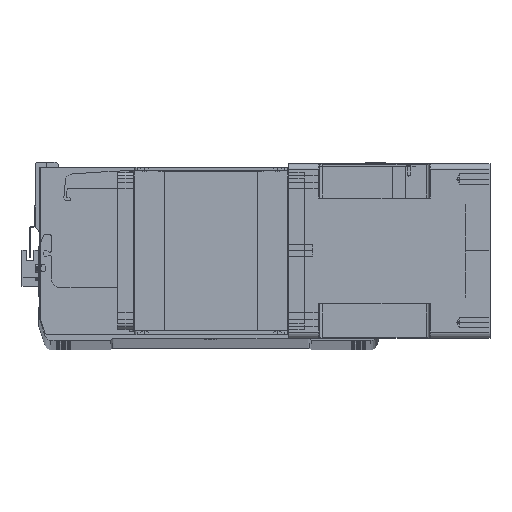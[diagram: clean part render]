
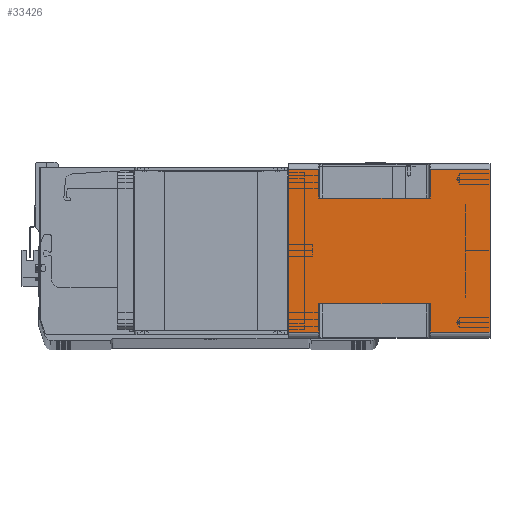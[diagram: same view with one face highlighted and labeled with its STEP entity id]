
A CAD part, top view. The second image highlights one B-rep face of the part: STEP entity #33426.
In plain terms, the highlighted planar face has unit normal (0, 0, 1) as drawn and (1, 0, 0) by its records, which use the part's own axes.
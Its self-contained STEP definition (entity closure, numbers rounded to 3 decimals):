
#168 = EDGE_CURVE ( 'NONE', #31550, #9869, #9153, .T. ) ;
#484 = ORIENTED_EDGE ( 'NONE', *, *, #168, .F. ) ;
#975 = ORIENTED_EDGE ( 'NONE', *, *, #14214, .T. ) ;
#1294 = ORIENTED_EDGE ( 'NONE', *, *, #26325, .T. ) ;
#1536 = LINE ( 'NONE', #27620, #15442 ) ;
#1651 = VECTOR ( 'NONE', #27663, 1000. ) ;
#2192 = VERTEX_POINT ( 'NONE', #34812 ) ;
#2843 = LINE ( 'NONE', #15194, #32625 ) ;
#2965 = CARTESIAN_POINT ( 'NONE',  ( 71., -66., -24.5 ) ) ;
#3566 = DIRECTION ( 'NONE',  ( 0., 0., 1. ) ) ;
#4466 = DIRECTION ( 'NONE',  ( 0., 1., 0. ) ) ;
#4529 = VERTEX_POINT ( 'NONE', #24535 ) ;
#4841 = CARTESIAN_POINT ( 'NONE',  ( 71., -66., 0. ) ) ;
#5975 = CARTESIAN_POINT ( 'NONE',  ( 71., 66., -24.5 ) ) ;
#6228 = DIRECTION ( 'NONE',  ( 0., 0., -1. ) ) ;
#6365 = VECTOR ( 'NONE', #4466, 1000. ) ;
#7499 = ORIENTED_EDGE ( 'NONE', *, *, #14161, .F. ) ;
#7522 = LINE ( 'NONE', #2965, #22384 ) ;
#7566 = LINE ( 'NONE', #15366, #15920 ) ;
#7591 = VERTEX_POINT ( 'NONE', #16608 ) ;
#7613 = VERTEX_POINT ( 'NONE', #24937 ) ;
#7665 = VECTOR ( 'NONE', #28583, 1000. ) ;
#9153 = LINE ( 'NONE', #30848, #6365 ) ;
#9298 = EDGE_LOOP ( 'NONE', ( #35235, #1294, #7499, #975, #35802, #20534, #28759, #25782, #32081, #484, #16276, #36229 ) ) ;
#9339 = VERTEX_POINT ( 'NONE', #32962 ) ;
#9783 = DIRECTION ( 'NONE',  ( 0., 1., 0. ) ) ;
#9869 = VERTEX_POINT ( 'NONE', #29401 ) ;
#10289 = CARTESIAN_POINT ( 'NONE',  ( 71., 43., -24.5 ) ) ;
#11186 = VERTEX_POINT ( 'NONE', #5975 ) ;
#13044 = LINE ( 'NONE', #35784, #27010 ) ;
#13728 = DIRECTION ( 'NONE',  ( 0., 0., 1. ) ) ;
#13786 = EDGE_CURVE ( 'NONE', #29967, #11186, #7522, .T. ) ;
#14161 = EDGE_CURVE ( 'NONE', #2192, #7591, #13044, .T. ) ;
#14214 = EDGE_CURVE ( 'NONE', #2192, #9339, #2843, .T. ) ;
#14471 = DIRECTION ( 'NONE',  ( 0., 0., 1. ) ) ;
#14728 = PLANE ( 'NONE',  #37094 ) ;
#15032 = CARTESIAN_POINT ( 'NONE',  ( 71., 43., -164. ) ) ;
#15097 = VECTOR ( 'NONE', #35185, 1000. ) ;
#15194 = CARTESIAN_POINT ( 'NONE',  ( 71., -66., -164. ) ) ;
#15366 = CARTESIAN_POINT ( 'NONE',  ( 71., -43., -164. ) ) ;
#15442 = VECTOR ( 'NONE', #9783, 1000. ) ;
#15920 = VECTOR ( 'NONE', #3566, 1000. ) ;
#16276 = ORIENTED_EDGE ( 'NONE', *, *, #24245, .F. ) ;
#16488 = LINE ( 'NONE', #30762, #1651 ) ;
#16544 = EDGE_CURVE ( 'NONE', #29967, #20913, #28753, .T. ) ;
#16608 = CARTESIAN_POINT ( 'NONE',  ( 71., -66., -115.5 ) ) ;
#17121 = CARTESIAN_POINT ( 'NONE',  ( 71., 66., -164. ) ) ;
#17222 = CARTESIAN_POINT ( 'NONE',  ( 71., -43., -24.5 ) ) ;
#17491 = LINE ( 'NONE', #32337, #29576 ) ;
#17628 = CARTESIAN_POINT ( 'NONE',  ( 71., 43., -115.5 ) ) ;
#17980 = DIRECTION ( 'NONE',  ( 0., 0., 1. ) ) ;
#18231 = DIRECTION ( 'NONE',  ( 0., 1., 0. ) ) ;
#18752 = EDGE_CURVE ( 'NONE', #4529, #22822, #1536, .T. ) ;
#18801 = VECTOR ( 'NONE', #13728, 1000. ) ;
#18815 = EDGE_CURVE ( 'NONE', #7613, #22822, #7566, .T. ) ;
#18893 = VERTEX_POINT ( 'NONE', #22250 ) ;
#20534 = ORIENTED_EDGE ( 'NONE', *, *, #30183, .T. ) ;
#20834 = VECTOR ( 'NONE', #6228, 1000. ) ;
#20913 = VERTEX_POINT ( 'NONE', #20932 ) ;
#20932 = CARTESIAN_POINT ( 'NONE',  ( 71., 43., -115.5 ) ) ;
#20981 = CARTESIAN_POINT ( 'NONE',  ( 71., -66., -164. ) ) ;
#21236 = DIRECTION ( 'NONE',  ( 1., 0., 0. ) ) ;
#22250 = CARTESIAN_POINT ( 'NONE',  ( 71., 66., -115.5 ) ) ;
#22384 = VECTOR ( 'NONE', #32624, 1000. ) ;
#22822 = VERTEX_POINT ( 'NONE', #17222 ) ;
#22979 = CARTESIAN_POINT ( 'NONE',  ( 71., -66., -164. ) ) ;
#23491 = LINE ( 'NONE', #22979, #7665 ) ;
#24245 = EDGE_CURVE ( 'NONE', #4529, #31550, #23491, .T. ) ;
#24535 = CARTESIAN_POINT ( 'NONE',  ( 71., -66., -24.5 ) ) ;
#24937 = CARTESIAN_POINT ( 'NONE',  ( 71., -43., -115.5 ) ) ;
#25782 = ORIENTED_EDGE ( 'NONE', *, *, #13786, .T. ) ;
#26325 = EDGE_CURVE ( 'NONE', #7613, #7591, #16488, .T. ) ;
#26415 = FACE_OUTER_BOUND ( 'NONE', #9298, .T. ) ;
#26622 = EDGE_CURVE ( 'NONE', #9339, #18893, #33708, .T. ) ;
#27010 = VECTOR ( 'NONE', #17980, 1000. ) ;
#27620 = CARTESIAN_POINT ( 'NONE',  ( 71., -43., -24.5 ) ) ;
#27663 = DIRECTION ( 'NONE',  ( 0., -1., 0. ) ) ;
#28583 = DIRECTION ( 'NONE',  ( 0., 0., 1. ) ) ;
#28753 = LINE ( 'NONE', #15032, #20834 ) ;
#28759 = ORIENTED_EDGE ( 'NONE', *, *, #16544, .F. ) ;
#29401 = CARTESIAN_POINT ( 'NONE',  ( 71., 66., 0. ) ) ;
#29576 = VECTOR ( 'NONE', #14471, 1000. ) ;
#29708 = DIRECTION ( 'NONE',  ( 0., 1., 0. ) ) ;
#29967 = VERTEX_POINT ( 'NONE', #10289 ) ;
#30183 = EDGE_CURVE ( 'NONE', #18893, #20913, #38380, .T. ) ;
#30762 = CARTESIAN_POINT ( 'NONE',  ( 71., -66., -115.5 ) ) ;
#30848 = CARTESIAN_POINT ( 'NONE',  ( 71., -66., 0. ) ) ;
#31550 = VERTEX_POINT ( 'NONE', #4841 ) ;
#32081 = ORIENTED_EDGE ( 'NONE', *, *, #37764, .T. ) ;
#32337 = CARTESIAN_POINT ( 'NONE',  ( 71., 66., -164. ) ) ;
#32624 = DIRECTION ( 'NONE',  ( 0., 1., 0. ) ) ;
#32625 = VECTOR ( 'NONE', #18231, 1000. ) ;
#32962 = CARTESIAN_POINT ( 'NONE',  ( 71., 66., -164. ) ) ;
#33426 = ADVANCED_FACE ( 'NONE', ( #26415 ), #14728, .T. ) ;
#33708 = LINE ( 'NONE', #17121, #18801 ) ;
#34812 = CARTESIAN_POINT ( 'NONE',  ( 71., -66., -164. ) ) ;
#35185 = DIRECTION ( 'NONE',  ( 0., -1., 0. ) ) ;
#35235 = ORIENTED_EDGE ( 'NONE', *, *, #18815, .F. ) ;
#35784 = CARTESIAN_POINT ( 'NONE',  ( 71., -66., -164. ) ) ;
#35802 = ORIENTED_EDGE ( 'NONE', *, *, #26622, .T. ) ;
#36229 = ORIENTED_EDGE ( 'NONE', *, *, #18752, .T. ) ;
#37094 = AXIS2_PLACEMENT_3D ( 'NONE', #20981, #21236, #29708 ) ;
#37764 = EDGE_CURVE ( 'NONE', #11186, #9869, #17491, .T. ) ;
#38380 = LINE ( 'NONE', #17628, #15097 ) ;
